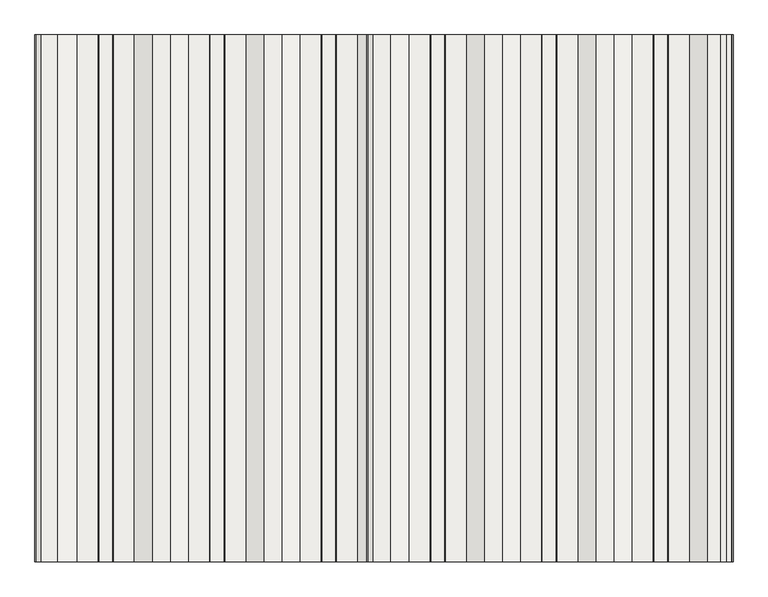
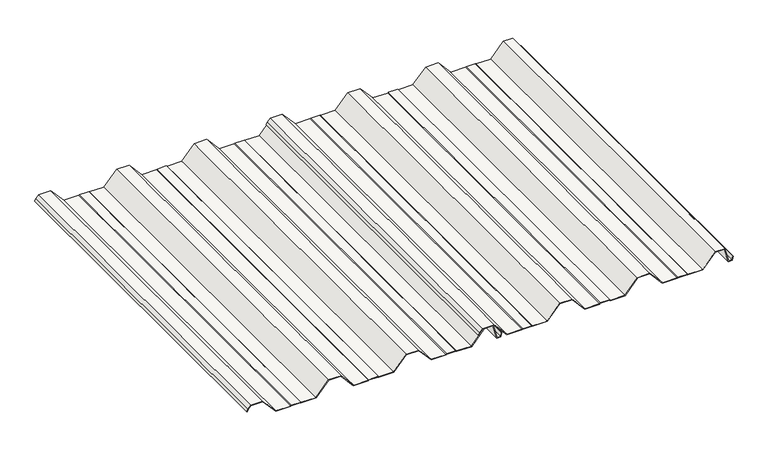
"""IFC4 building model written with IfcOpenShell, lengths in millimetres: roof geometry, 27_CWP_SAB58KD_945:SAB58KD_945:165322 : 27_CWP_SAB58KD_945:SAB58KD_945:165322."""

from ifc_helpers import new_model, si_unit, frame, origin, place, context, project, spatial, polyline, outline, extrude, source, transform, mapped, element, save


def roof_e9c2aae1(model_context):
    return source(origin(), model_context, "Body", "SweptSolid", [
        extrude(outline(polyline([(5.5495818, 36091.8958104), (3.5334954, 36088.8716809), (3.5334954, 36029.1427241), (62.0, 35977.7325033), (62.0, 35926.4257624), (3.5334954, 35875.0155417), (3.5334954, 35815.2876447), (5.5495818, 35812.2635151), (5.5495818, 35774.3603661), (3.5334954, 35771.3362366), (3.5334954, 35711.6119942), (64.0, 35658.4383219), (64.0, 35608.9001612), (50.7877362, 35597.0856835), (41.2315811, 35592.8084881), (40.4145189, 35594.6339769), (49.6865944, 35598.7840225), (62.0, 35609.7947363), (62.0, 35657.5337759), (1.5334954, 35710.7074482), (1.5334954, 35771.9417879), (3.5495818, 35774.9659174), (3.5495818, 35811.6579639), (1.5334954, 35814.6820934), (1.5334954, 35875.9201419), (60.0, 35927.3303627), (60.0, 35976.8279031), (1.5334954, 36028.2381238), (1.5334954, 36089.4772322), (3.5495818, 36092.5013617), (3.5495818, 36129.1934082), (1.5334954, 36132.2175377), (1.5334954, 36193.4555862), (60.0, 36244.865807), (60.0, 36294.3633474), (1.5334954, 36345.7735682), (1.5334954, 36407.0108346), (3.5495818, 36410.0349641), (3.5495818, 36446.7270106), (1.5334954, 36449.7511401), (1.5334954, 36510.9887322), (60.0, 36562.3990822), (60.0, 36598.4882155), (1.5334954, 36615.0081757), (1.5334954, 36631.2958644), (17.436214, 36634.8296424), (17.8700563, 36632.8772642), (3.5334954, 36629.6915055), (3.5334954, 36616.5213712), (62.0, 36600.001411), (62.0, 36561.4944835), (3.5334954, 36510.0841335), (3.5334954, 36450.3566914), (5.5495818, 36447.3325618), (5.5495818, 36409.4294128), (3.5334954, 36406.4052833), (3.5334954, 36346.6781684), (62.0, 36295.2679476), (62.0, 36243.9612068), (3.5334954, 36192.550986), (3.5334954, 36132.823089), (5.5495818, 36129.7989595), (5.5495818, 36091.8958104)])), frame((0.0, -13415.0, 0.0), z_axis=(0.0, 1.0, 0.0), x_axis=(0.0, 0.0, 1.0)), (0.0, 0.0, 1.0), 1500.0),
        extrude(outline(polyline([(5.5495818, 35146.8958104), (3.5334954, 35143.8716809), (3.5334954, 35084.1427241), (62.0, 35032.7325033), (62.0, 34981.4257624), (3.5334954, 34930.0155417), (3.5334954, 34870.2876447), (5.5495818, 34867.2635151), (5.5495818, 34829.3603661), (3.5334954, 34826.3362366), (3.5334954, 34766.6119942), (64.0, 34713.4383219), (64.0, 34663.9001612), (50.7877362, 34652.0856835), (41.2315811, 34647.8084881), (40.4145189, 34649.6339769), (49.6865944, 34653.7840225), (62.0, 34664.7947363), (62.0, 34712.5337759), (1.5334954, 34765.7074482), (1.5334954, 34826.9417879), (3.5495818, 34829.9659174), (3.5495818, 34866.6579639), (1.5334954, 34869.6820934), (1.5334954, 34930.9201419), (60.0, 34982.3303627), (60.0, 35031.8279031), (1.5334954, 35083.2381238), (1.5334954, 35144.4772322), (3.5495818, 35147.5013617), (3.5495818, 35184.1934082), (1.5334954, 35187.2175377), (1.5334954, 35248.4555862), (60.0, 35299.865807), (60.0, 35349.3633474), (1.5334954, 35400.7735682), (1.5334954, 35462.0108346), (3.5495818, 35465.0349641), (3.5495818, 35501.7270106), (1.5334954, 35504.7511401), (1.5334954, 35565.9887322), (60.0, 35617.3990822), (60.0, 35653.4882155), (1.5334954, 35670.0081757), (1.5334954, 35686.2958644), (17.436214, 35689.8296424), (17.8700563, 35687.8772642), (3.5334954, 35684.6915055), (3.5334954, 35671.5213712), (62.0, 35655.001411), (62.0, 35616.4944835), (3.5334954, 35565.0841335), (3.5334954, 35505.3566914), (5.5495818, 35502.3325618), (5.5495818, 35464.4294128), (3.5334954, 35461.4052833), (3.5334954, 35401.6781684), (62.0, 35350.2679476), (62.0, 35298.9612068), (3.5334954, 35247.550986), (3.5334954, 35187.823089), (5.5495818, 35184.7989595), (5.5495818, 35146.8958104)])), frame((0.0, -13415.0, 0.0), z_axis=(0.0, 1.0, 0.0), x_axis=(0.0, 0.0, 1.0)), (0.0, 0.0, 1.0), 1500.0),
    ])


if __name__ == "__main__":
    model = new_model("IFC4")
    model_context = context("Model", 3, world=origin())
    ifc_project = project(units=[si_unit("LENGTHUNIT", "METRE", prefix="MILLI")], contexts=[model_context])
    site = spatial("IfcSite", under=ifc_project)
    building = spatial("IfcBuilding", under=site)
    placement = place(None, origin())
    roof_shape = roof_e9c2aae1(model_context)
    element("IfcRoof", 1, ObjectType="27_CWP_SAB58KD_945:SAB58KD_945:165322 : 27_CWP_SAB58KD_945:SAB58KD_945:165322", at=placement, inside=building, context=model_context, shape_type="MappedRepresentation", body=[
        mapped(roof_shape, transform((0.0, 0.0, 0.0), x_axis=(1.0, 0.0, 0.0), y_axis=(0.0, 1.0, 0.0), z_axis=(0.0, 0.0, 1.0))),
    ])
    save(model, "model.ifc")
